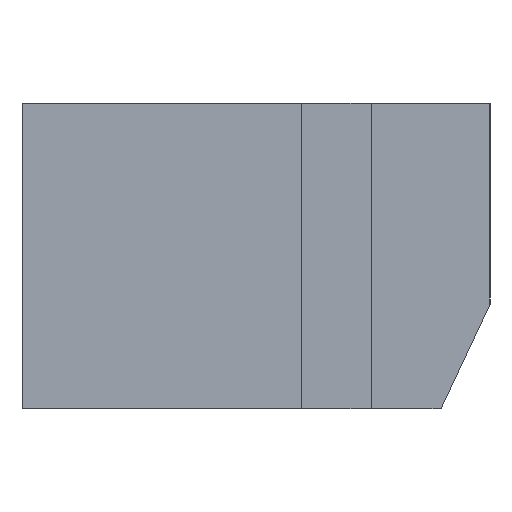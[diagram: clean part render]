
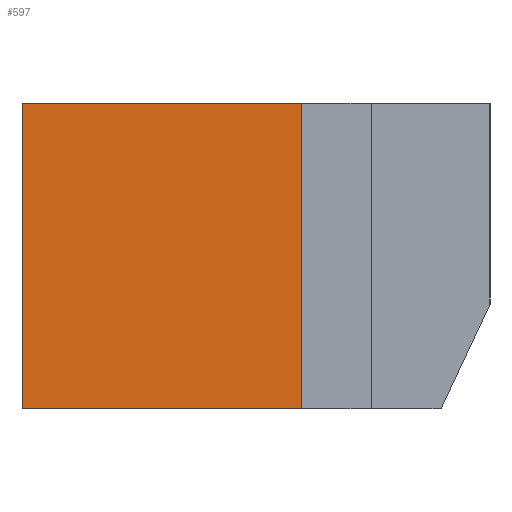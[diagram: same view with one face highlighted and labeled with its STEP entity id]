
A CAD part, left-side view. The second image highlights one B-rep face of the part: STEP entity #597.
In plain terms, the highlighted planar face has unit normal (-1, 0, 0).
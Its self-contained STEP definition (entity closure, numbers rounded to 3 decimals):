
#32 = PLANE('',#33);
#33 = AXIS2_PLACEMENT_3D('',#34,#35,#36);
#34 = CARTESIAN_POINT('',(-13.,3.,2.4));
#35 = DIRECTION('',(0.,0.,-1.));
#36 = DIRECTION('',(0.,-1.,0.));
#393 = VERTEX_POINT('',#394);
#394 = CARTESIAN_POINT('',(-14.4,2.6,2.4));
#408 = PLANE('',#409);
#409 = AXIS2_PLACEMENT_3D('',#410,#411,#412);
#410 = CARTESIAN_POINT('',(-14.4,2.6,2.4));
#411 = DIRECTION('',(0.,1.,0.));
#412 = DIRECTION('',(0.,0.,1.));
#420 = EDGE_CURVE('',#393,#421,#423,.T.);
#421 = VERTEX_POINT('',#422);
#422 = CARTESIAN_POINT('',(-14.4,4.2,2.4));
#423 = SURFACE_CURVE('',#424,(#428,#435),.PCURVE_S1.);
#424 = LINE('',#425,#426);
#425 = CARTESIAN_POINT('',(-14.4,2.6,2.4));
#426 = VECTOR('',#427,1.);
#427 = DIRECTION('',(0.,1.,0.));
#428 = PCURVE('',#32,#429);
#429 = DEFINITIONAL_REPRESENTATION('',(#430),#434);
#430 = LINE('',#431,#432);
#431 = CARTESIAN_POINT('',(0.4,1.4));
#432 = VECTOR('',#433,1.);
#433 = DIRECTION('',(-1.,-0.));
#434 = ( GEOMETRIC_REPRESENTATION_CONTEXT(2) 
PARAMETRIC_REPRESENTATION_CONTEXT() REPRESENTATION_CONTEXT('2D SPACE',''
  ) );
#435 = PCURVE('',#436,#441);
#436 = PLANE('',#437);
#437 = AXIS2_PLACEMENT_3D('',#438,#439,#440);
#438 = CARTESIAN_POINT('',(-14.4,2.6,2.4));
#439 = DIRECTION('',(1.,0.,0.));
#440 = DIRECTION('',(0.,0.,1.));
#441 = DEFINITIONAL_REPRESENTATION('',(#442),#446);
#442 = LINE('',#443,#444);
#443 = CARTESIAN_POINT('',(0.,0.));
#444 = VECTOR('',#445,1.);
#445 = DIRECTION('',(0.,-1.));
#446 = ( GEOMETRIC_REPRESENTATION_CONTEXT(2) 
PARAMETRIC_REPRESENTATION_CONTEXT() REPRESENTATION_CONTEXT('2D SPACE',''
  ) );
#462 = PLANE('',#463);
#463 = AXIS2_PLACEMENT_3D('',#464,#465,#466);
#464 = CARTESIAN_POINT('',(-14.4,4.2,2.4));
#465 = DIRECTION('',(0.,1.,0.));
#466 = DIRECTION('',(0.,0.,1.));
#495 = PLANE('',#496);
#496 = AXIS2_PLACEMENT_3D('',#497,#498,#499);
#497 = CARTESIAN_POINT('',(-13.,1.52,4.15));
#498 = DIRECTION('',(0.,0.,1.));
#499 = DIRECTION('',(0.,1.,0.));
#553 = EDGE_CURVE('',#421,#554,#556,.T.);
#554 = VERTEX_POINT('',#555);
#555 = CARTESIAN_POINT('',(-14.4,4.2,4.15));
#556 = SURFACE_CURVE('',#557,(#561,#568),.PCURVE_S1.);
#557 = LINE('',#558,#559);
#558 = CARTESIAN_POINT('',(-14.4,4.2,2.4));
#559 = VECTOR('',#560,1.);
#560 = DIRECTION('',(0.,0.,1.));
#561 = PCURVE('',#462,#562);
#562 = DEFINITIONAL_REPRESENTATION('',(#563),#567);
#563 = LINE('',#564,#565);
#564 = CARTESIAN_POINT('',(0.,0.));
#565 = VECTOR('',#566,1.);
#566 = DIRECTION('',(1.,0.));
#567 = ( GEOMETRIC_REPRESENTATION_CONTEXT(2) 
PARAMETRIC_REPRESENTATION_CONTEXT() REPRESENTATION_CONTEXT('2D SPACE',''
  ) );
#568 = PCURVE('',#436,#569);
#569 = DEFINITIONAL_REPRESENTATION('',(#570),#574);
#570 = LINE('',#571,#572);
#571 = CARTESIAN_POINT('',(0.,-1.6));
#572 = VECTOR('',#573,1.);
#573 = DIRECTION('',(1.,0.));
#574 = ( GEOMETRIC_REPRESENTATION_CONTEXT(2) 
PARAMETRIC_REPRESENTATION_CONTEXT() REPRESENTATION_CONTEXT('2D SPACE',''
  ) );
#597 = ADVANCED_FACE('',(#598),#436,.F.);
#598 = FACE_BOUND('',#599,.F.);
#599 = EDGE_LOOP('',(#600,#623,#624,#625));
#600 = ORIENTED_EDGE('',*,*,#601,.F.);
#601 = EDGE_CURVE('',#393,#602,#604,.T.);
#602 = VERTEX_POINT('',#603);
#603 = CARTESIAN_POINT('',(-14.4,2.6,4.15));
#604 = SURFACE_CURVE('',#605,(#609,#616),.PCURVE_S1.);
#605 = LINE('',#606,#607);
#606 = CARTESIAN_POINT('',(-14.4,2.6,2.4));
#607 = VECTOR('',#608,1.);
#608 = DIRECTION('',(0.,0.,1.));
#609 = PCURVE('',#436,#610);
#610 = DEFINITIONAL_REPRESENTATION('',(#611),#615);
#611 = LINE('',#612,#613);
#612 = CARTESIAN_POINT('',(0.,0.));
#613 = VECTOR('',#614,1.);
#614 = DIRECTION('',(1.,0.));
#615 = ( GEOMETRIC_REPRESENTATION_CONTEXT(2) 
PARAMETRIC_REPRESENTATION_CONTEXT() REPRESENTATION_CONTEXT('2D SPACE',''
  ) );
#616 = PCURVE('',#408,#617);
#617 = DEFINITIONAL_REPRESENTATION('',(#618),#622);
#618 = LINE('',#619,#620);
#619 = CARTESIAN_POINT('',(0.,0.));
#620 = VECTOR('',#621,1.);
#621 = DIRECTION('',(1.,0.));
#622 = ( GEOMETRIC_REPRESENTATION_CONTEXT(2) 
PARAMETRIC_REPRESENTATION_CONTEXT() REPRESENTATION_CONTEXT('2D SPACE',''
  ) );
#623 = ORIENTED_EDGE('',*,*,#420,.T.);
#624 = ORIENTED_EDGE('',*,*,#553,.T.);
#625 = ORIENTED_EDGE('',*,*,#626,.F.);
#626 = EDGE_CURVE('',#602,#554,#627,.T.);
#627 = SURFACE_CURVE('',#628,(#632,#639),.PCURVE_S1.);
#628 = LINE('',#629,#630);
#629 = CARTESIAN_POINT('',(-14.4,2.6,4.15));
#630 = VECTOR('',#631,1.);
#631 = DIRECTION('',(0.,1.,0.));
#632 = PCURVE('',#436,#633);
#633 = DEFINITIONAL_REPRESENTATION('',(#634),#638);
#634 = LINE('',#635,#636);
#635 = CARTESIAN_POINT('',(1.75,0.));
#636 = VECTOR('',#637,1.);
#637 = DIRECTION('',(0.,-1.));
#638 = ( GEOMETRIC_REPRESENTATION_CONTEXT(2) 
PARAMETRIC_REPRESENTATION_CONTEXT() REPRESENTATION_CONTEXT('2D SPACE',''
  ) );
#639 = PCURVE('',#495,#640);
#640 = DEFINITIONAL_REPRESENTATION('',(#641),#645);
#641 = LINE('',#642,#643);
#642 = CARTESIAN_POINT('',(1.08,1.4));
#643 = VECTOR('',#644,1.);
#644 = DIRECTION('',(1.,0.));
#645 = ( GEOMETRIC_REPRESENTATION_CONTEXT(2) 
PARAMETRIC_REPRESENTATION_CONTEXT() REPRESENTATION_CONTEXT('2D SPACE',''
  ) );
